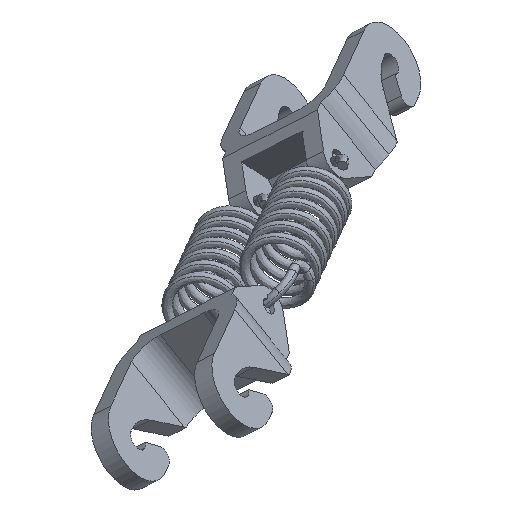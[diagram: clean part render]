
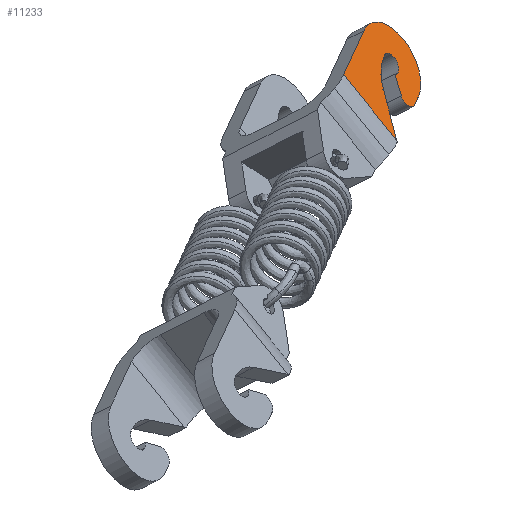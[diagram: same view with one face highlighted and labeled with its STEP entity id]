
A CAD part, isometric view. The second image highlights one B-rep face of the part: STEP entity #11233.
In plain terms, the highlighted planar face has unit normal (0.393, -0.681, 0.618).
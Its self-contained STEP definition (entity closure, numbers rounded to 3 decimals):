
#219 = LINE ( 'NONE', #3813, #453 ) ;
#270 = VERTEX_POINT ( 'NONE', #1105 ) ;
#325 = DIRECTION ( 'NONE',  ( -0.393, 0.681, -0.618 ) ) ;
#453 = VECTOR ( 'NONE', #2643, 1000. ) ;
#459 = LINE ( 'NONE', #11122, #2145 ) ;
#623 = AXIS2_PLACEMENT_3D ( 'NONE', #10500, #4435, #4489 ) ;
#692 = LINE ( 'NONE', #8110, #4013 ) ;
#819 = AXIS2_PLACEMENT_3D ( 'NONE', #2855, #4549, #4727 ) ;
#862 = EDGE_LOOP ( 'NONE', ( #11261, #9128, #10053, #9395, #5605, #3774, #9315, #4306, #4165, #4619, #8868, #5038, #6380, #2242 ) ) ;
#934 = EDGE_CURVE ( 'NONE', #8374, #7385, #9172, .T. ) ;
#980 = CARTESIAN_POINT ( 'NONE',  ( 13.061, 77.378, -859.364 ) ) ;
#996 = CIRCLE ( 'NONE', #623, 2. ) ;
#1105 = CARTESIAN_POINT ( 'NONE',  ( 15.533, 74.44, -864.172 ) ) ;
#1162 = CARTESIAN_POINT ( 'NONE',  ( 15.914, 67.606, -871.942 ) ) ;
#1177 = CIRCLE ( 'NONE', #8131, 2. ) ;
#1183 = PLANE ( 'NONE',  #1603 ) ;
#1185 = DIRECTION ( 'NONE',  ( 0.393, -0.681, 0.618 ) ) ;
#1218 = VERTEX_POINT ( 'NONE', #10161 ) ;
#1256 = LINE ( 'NONE', #8552, #10432 ) ;
#1533 = AXIS2_PLACEMENT_3D ( 'NONE', #9611, #325, #10546 ) ;
#1579 = DIRECTION ( 'NONE',  ( 0.393, -0.681, 0.618 ) ) ;
#1603 = AXIS2_PLACEMENT_3D ( 'NONE', #9422, #10373, #2298 ) ;
#1640 = DIRECTION ( 'NONE',  ( 0.394, 0.732, 0.556 ) ) ;
#1658 = AXIS2_PLACEMENT_3D ( 'NONE', #9681, #5242, #8842 ) ;
#1769 = VERTEX_POINT ( 'NONE', #2429 ) ;
#1931 = DIRECTION ( 'NONE',  ( 0., 0.672, 0.74 ) ) ;
#1987 = CARTESIAN_POINT ( 'NONE',  ( 15.296, 67.332, -871.851 ) ) ;
#2124 = CARTESIAN_POINT ( 'NONE',  ( 5.786, 61.979, -871.699 ) ) ;
#2145 = VECTOR ( 'NONE', #6579, 1000. ) ;
#2242 = ORIENTED_EDGE ( 'NONE', *, *, #7250, .F. ) ;
#2282 = AXIS2_PLACEMENT_3D ( 'NONE', #6410, #1185, #5416 ) ;
#2298 = DIRECTION ( 'NONE',  ( 0., 0.672, 0.74 ) ) ;
#2328 = VERTEX_POINT ( 'NONE', #980 ) ;
#2429 = CARTESIAN_POINT ( 'NONE',  ( 9.683, 69.223, -866.199 ) ) ;
#2451 = DIRECTION ( 'NONE',  ( 0., -0.672, -0.74 ) ) ;
#2643 = DIRECTION ( 'NONE',  ( 0.344, 0.732, 0.588 ) ) ;
#2646 = CARTESIAN_POINT ( 'NONE',  ( 5.786, 61.979, -871.699 ) ) ;
#2855 = CARTESIAN_POINT ( 'NONE',  ( 17.324, 68.994, -871.311 ) ) ;
#3128 = VERTEX_POINT ( 'NONE', #9345 ) ;
#3226 = CIRCLE ( 'NONE', #1533, 8. ) ;
#3774 = ORIENTED_EDGE ( 'NONE', *, *, #10351, .T. ) ;
#3813 = CARTESIAN_POINT ( 'NONE',  ( 13.591, 68.64, -869.326 ) ) ;
#3890 = FACE_OUTER_BOUND ( 'NONE', #862, .T. ) ;
#3977 = DIRECTION ( 'NONE',  ( 0., -0.672, -0.74 ) ) ;
#4013 = VECTOR ( 'NONE', #6158, 1000. ) ;
#4165 = ORIENTED_EDGE ( 'NONE', *, *, #8132, .F. ) ;
#4243 = EDGE_CURVE ( 'NONE', #7385, #270, #5842, .T. ) ;
#4306 = ORIENTED_EDGE ( 'NONE', *, *, #8084, .T. ) ;
#4435 = DIRECTION ( 'NONE',  ( -0.393, 0.681, -0.618 ) ) ;
#4489 = DIRECTION ( 'NONE',  ( 0., -0.672, -0.74 ) ) ;
#4549 = DIRECTION ( 'NONE',  ( 0.393, -0.681, 0.618 ) ) ;
#4619 = ORIENTED_EDGE ( 'NONE', *, *, #4243, .F. ) ;
#4709 = EDGE_CURVE ( 'NONE', #2328, #5182, #5811, .T. ) ;
#4727 = DIRECTION ( 'NONE',  ( 0., -0.672, -0.74 ) ) ;
#5038 = ORIENTED_EDGE ( 'NONE', *, *, #7847, .F. ) ;
#5057 = EDGE_CURVE ( 'NONE', #2328, #8101, #3226, .T. ) ;
#5091 = VECTOR ( 'NONE', #6761, 1000. ) ;
#5182 = VERTEX_POINT ( 'NONE', #7761 ) ;
#5242 = DIRECTION ( 'NONE',  ( 0.393, -0.681, 0.618 ) ) ;
#5416 = DIRECTION ( 'NONE',  ( 0., -0.672, -0.74 ) ) ;
#5605 = ORIENTED_EDGE ( 'NONE', *, *, #8860, .F. ) ;
#5811 = LINE ( 'NONE', #9414, #5091 ) ;
#5842 = CIRCLE ( 'NONE', #2282, 2. ) ;
#5960 = CARTESIAN_POINT ( 'NONE',  ( 15.296, 68.677, -870.37 ) ) ;
#6158 = DIRECTION ( 'NONE',  ( -0.309, 0.535, 0.786 ) ) ;
#6162 = LINE ( 'NONE', #2646, #7216 ) ;
#6380 = ORIENTED_EDGE ( 'NONE', *, *, #7387, .F. ) ;
#6390 = CARTESIAN_POINT ( 'NONE',  ( 15.533, 73.096, -865.653 ) ) ;
#6410 = CARTESIAN_POINT ( 'NONE',  ( 15.533, 73.096, -865.653 ) ) ;
#6450 = CIRCLE ( 'NONE', #6653, 8. ) ;
#6579 = DIRECTION ( 'NONE',  ( 0.866, 0.5, 0. ) ) ;
#6653 = AXIS2_PLACEMENT_3D ( 'NONE', #6390, #9995, #1931 ) ;
#6728 = VERTEX_POINT ( 'NONE', #2124 ) ;
#6761 = DIRECTION ( 'NONE',  ( -0.866, -0.5, 0. ) ) ;
#7019 = CARTESIAN_POINT ( 'NONE',  ( 15.533, 71.751, -867.134 ) ) ;
#7216 = VECTOR ( 'NONE', #1640, 1000. ) ;
#7250 = EDGE_CURVE ( 'NONE', #8017, #9084, #9656, .T. ) ;
#7330 = CARTESIAN_POINT ( 'NONE',  ( 15., 71.64, -866.917 ) ) ;
#7385 = VERTEX_POINT ( 'NONE', #7019 ) ;
#7387 = EDGE_CURVE ( 'NONE', #9084, #1218, #996, .T. ) ;
#7761 = CARTESIAN_POINT ( 'NONE',  ( 0.937, 70.378, -859.364 ) ) ;
#7812 = CARTESIAN_POINT ( 'NONE',  ( 15.533, 73.096, -865.653 ) ) ;
#7847 = EDGE_CURVE ( 'NONE', #1218, #8374, #219, .T. ) ;
#8017 = VERTEX_POINT ( 'NONE', #1162 ) ;
#8084 = EDGE_CURVE ( 'NONE', #3128, #10614, #459, .T. ) ;
#8101 = VERTEX_POINT ( 'NONE', #8460 ) ;
#8110 = CARTESIAN_POINT ( 'NONE',  ( 5.881, 61.814, -871.942 ) ) ;
#8131 = AXIS2_PLACEMENT_3D ( 'NONE', #7812, #1579, #2451 ) ;
#8132 = EDGE_CURVE ( 'NONE', #270, #10614, #1177, .T. ) ;
#8374 = VERTEX_POINT ( 'NONE', #7330 ) ;
#8460 = CARTESIAN_POINT ( 'NONE',  ( 15.533, 78.473, -859.73 ) ) ;
#8552 = CARTESIAN_POINT ( 'NONE',  ( 18.005, 68.814, -871.942 ) ) ;
#8693 = CARTESIAN_POINT ( 'NONE',  ( 14.915, 74.166, -864.081 ) ) ;
#8806 = VERTEX_POINT ( 'NONE', #9533 ) ;
#8842 = DIRECTION ( 'NONE',  ( 0., -0.672, -0.74 ) ) ;
#8860 = EDGE_CURVE ( 'NONE', #6728, #5182, #692, .T. ) ;
#8868 = ORIENTED_EDGE ( 'NONE', *, *, #934, .F. ) ;
#9084 = VERTEX_POINT ( 'NONE', #1987 ) ;
#9128 = ORIENTED_EDGE ( 'NONE', *, *, #9173, .F. ) ;
#9172 = CIRCLE ( 'NONE', #1658, 2. ) ;
#9173 = EDGE_CURVE ( 'NONE', #8101, #8806, #6450, .T. ) ;
#9315 = ORIENTED_EDGE ( 'NONE', *, *, #9335, .F. ) ;
#9324 = DIRECTION ( 'NONE',  ( -0.866, -0.5, 0. ) ) ;
#9335 = EDGE_CURVE ( 'NONE', #3128, #1769, #10982, .T. ) ;
#9345 = CARTESIAN_POINT ( 'NONE',  ( 14.482, 73.916, -864.081 ) ) ;
#9395 = ORIENTED_EDGE ( 'NONE', *, *, #4709, .T. ) ;
#9414 = CARTESIAN_POINT ( 'NONE',  ( 13.061, 77.378, -859.364 ) ) ;
#9422 = CARTESIAN_POINT ( 'NONE',  ( 5.881, 61.814, -871.942 ) ) ;
#9533 = CARTESIAN_POINT ( 'NONE',  ( 18.005, 68.814, -871.942 ) ) ;
#9611 = CARTESIAN_POINT ( 'NONE',  ( 15.533, 73.096, -865.653 ) ) ;
#9656 = CIRCLE ( 'NONE', #11347, 2. ) ;
#9681 = CARTESIAN_POINT ( 'NONE',  ( 15.533, 73.096, -865.653 ) ) ;
#9995 = DIRECTION ( 'NONE',  ( -0.393, 0.681, -0.618 ) ) ;
#10053 = ORIENTED_EDGE ( 'NONE', *, *, #5057, .F. ) ;
#10161 = CARTESIAN_POINT ( 'NONE',  ( 13.591, 68.64, -869.326 ) ) ;
#10351 = EDGE_CURVE ( 'NONE', #6728, #1769, #6162, .T. ) ;
#10373 = DIRECTION ( 'NONE',  ( -0.393, 0.681, -0.618 ) ) ;
#10432 = VECTOR ( 'NONE', #9324, 1000. ) ;
#10451 = DIRECTION ( 'NONE',  ( -0.393, 0.681, -0.618 ) ) ;
#10500 = CARTESIAN_POINT ( 'NONE',  ( 15.296, 68.677, -870.37 ) ) ;
#10546 = DIRECTION ( 'NONE',  ( 0., 0.672, 0.74 ) ) ;
#10614 = VERTEX_POINT ( 'NONE', #8693 ) ;
#10941 = EDGE_CURVE ( 'NONE', #8806, #8017, #1256, .T. ) ;
#10982 = CIRCLE ( 'NONE', #819, 9.196 ) ;
#11122 = CARTESIAN_POINT ( 'NONE',  ( 14.482, 73.916, -864.081 ) ) ;
#11233 = ADVANCED_FACE ( 'NONE', ( #3890 ), #1183, .F. ) ;
#11261 = ORIENTED_EDGE ( 'NONE', *, *, #10941, .F. ) ;
#11347 = AXIS2_PLACEMENT_3D ( 'NONE', #5960, #10451, #3977 ) ;
